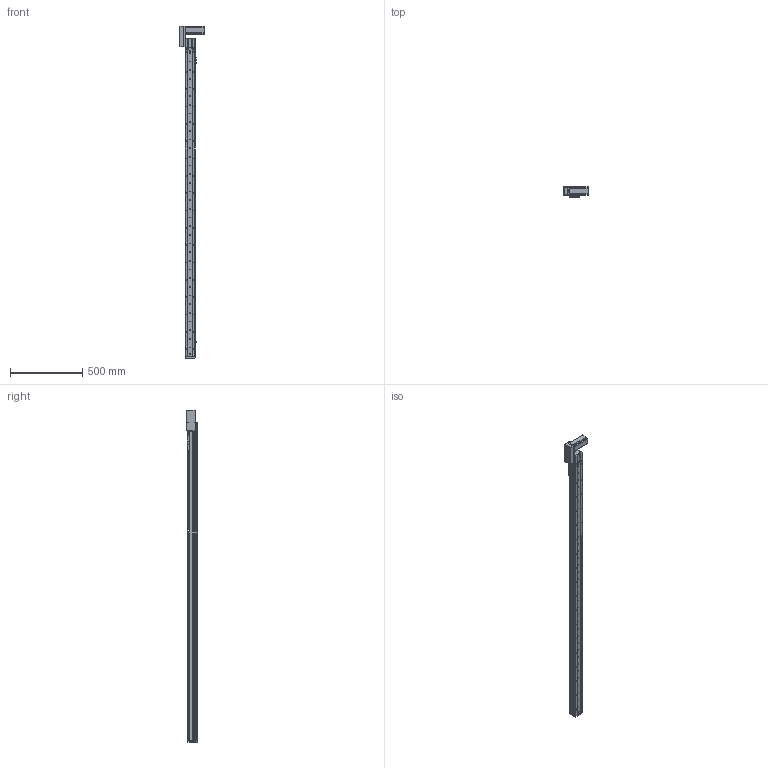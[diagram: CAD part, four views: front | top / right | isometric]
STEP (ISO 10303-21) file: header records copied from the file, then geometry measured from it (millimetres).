
FILE_DESCRIPTION (( 'STEP AP214' ), '1' );
FILE_NAME ('KSD68BS-S1950-MRB-CM.STEP', '2019-11-06T08:07:33', ( '微软用户' ), ( '微软中国' ), 'SwSTEP 2.0', 'SolidWorks 2014', '' );
FILE_SCHEMA (( 'AUTOMOTIVE_DESIGN' ));
Length unit declared in the file: millimetre
Products named in the file (11): KSD68BS-S1950-MRB-CM; 悵誘欶奻狟殏; 68宽马达安装板连板上折同步带; 68宽单导轨半封闭同步带主动轮座右; 68单导轨同步带半封闭端板; KSD68BS 1950俴最裔啣圉猾敕; 覜茼え68遵圉猾敕; KSD68BS半封闭同步带传动导轨座; U倰嫖萇EEㄜSX672; 台达ECMA－C20604AS伺服电机（400W); KSD68BS 1950俴最菁啣圉猾敕
Assembly tree (12 placements, depth 2):
  KSD68BS-S1950-MRB-CM
    KSD68BS 1950俴最菁啣圉猾敕
    台达ECMA－C20604AS伺服电机（400W)
    U倰嫖萇EEㄜSX672  x3
    KSD68BS半封闭同步带传动导轨座
    覜茼え68遵圉猾敕
    KSD68BS 1950俴最裔啣圉猾敕
    68单导轨同步带半封闭端板
    68宽单导轨半封闭同步带主动轮座右
    68宽马达安装板连板上折同步带
    悵誘欶奻狟殏
Bounding box: 167.2 x 70.5 x 2299.5 mm (x, y, z)
Volume: 3569447.6 mm3; surface area: 1349013.9 mm2
Topology: 13 solids, 13 shells, 1678 faces, 4946 edges, 3226 vertices
Faces by surface type: cylinder 900, plane 695, cone 83
Entity records: 66705 total; most frequent: CARTESIAN_POINT 13642, ORIENTED_EDGE 8644, DIRECTION 8304, EDGE_CURVE 4322, AXIS2_PLACEMENT_3D 3000, VERTEX_POINT 2850, LINE 2304, VECTOR 2304
